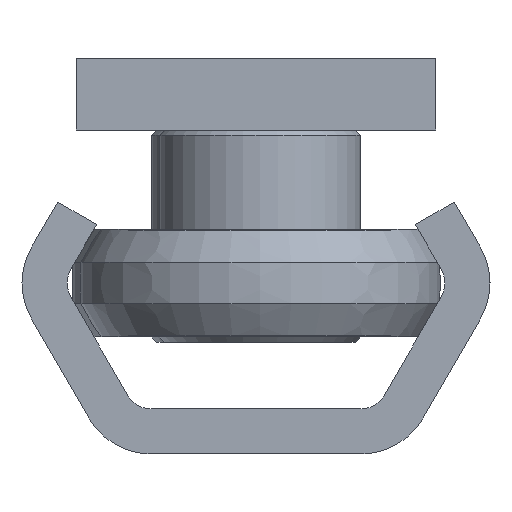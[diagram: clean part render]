
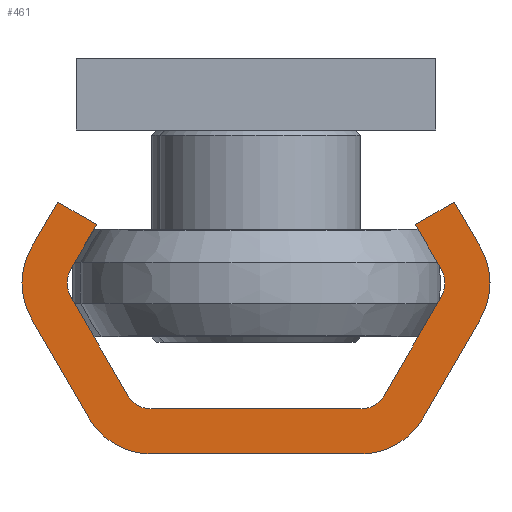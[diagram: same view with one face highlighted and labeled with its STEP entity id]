
A CAD part, left-side view. The second image highlights one B-rep face of the part: STEP entity #461.
In plain terms, the highlighted planar face has unit normal (-1, 0, 0).
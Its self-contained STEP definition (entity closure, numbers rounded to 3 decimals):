
#461 = ADVANCED_FACE( '', ( #957 ), #958, .F. );
#957 = FACE_OUTER_BOUND( '', #1591, .T. );
#958 = PLANE( '', #1592 );
#1591 = EDGE_LOOP( '', ( #2589, #2590, #2591, #2592, #2593, #2594, #2595, #2596, #2597, #2598, #2599, #2600, #2601, #2602, #2603, #2604, #2605, #2606, #2607, #2608 ) );
#1592 = AXIS2_PLACEMENT_3D( '', #2609, #2610, #2611 );
#2589 = ORIENTED_EDGE( '', *, *, #3428, .F. );
#2590 = ORIENTED_EDGE( '', *, *, #3155, .F. );
#2591 = ORIENTED_EDGE( '', *, *, #3426, .F. );
#2592 = ORIENTED_EDGE( '', *, *, #3139, .F. );
#2593 = ORIENTED_EDGE( '', *, *, #3429, .F. );
#2594 = ORIENTED_EDGE( '', *, *, #3430, .F. );
#2595 = ORIENTED_EDGE( '', *, *, #3361, .F. );
#2596 = ORIENTED_EDGE( '', *, *, #3431, .T. );
#2597 = ORIENTED_EDGE( '', *, *, #3259, .F. );
#2598 = ORIENTED_EDGE( '', *, *, #3307, .T. );
#2599 = ORIENTED_EDGE( '', *, *, #3247, .F. );
#2600 = ORIENTED_EDGE( '', *, *, #3255, .T. );
#2601 = ORIENTED_EDGE( '', *, *, #3416, .F. );
#2602 = ORIENTED_EDGE( '', *, *, #3432, .T. );
#2603 = ORIENTED_EDGE( '', *, *, #3281, .F. );
#2604 = ORIENTED_EDGE( '', *, *, #3219, .F. );
#2605 = ORIENTED_EDGE( '', *, *, #3433, .F. );
#2606 = ORIENTED_EDGE( '', *, *, #3434, .F. );
#2607 = ORIENTED_EDGE( '', *, *, #3435, .F. );
#2608 = ORIENTED_EDGE( '', *, *, #3405, .F. );
#2609 = CARTESIAN_POINT( '', ( 0., -5.825, -4. ) );
#2610 = DIRECTION( '', ( 1., 0., 0. ) );
#2611 = DIRECTION( '', ( 0., 0., -1. ) );
#3139 = EDGE_CURVE( '', #3569, #3570, #3571, .T. );
#3155 = EDGE_CURVE( '', #3597, #3598, #3599, .T. );
#3219 = EDGE_CURVE( '', #3708, #3709, #3710, .T. );
#3247 = EDGE_CURVE( '', #3753, #3754, #3755, .T. );
#3255 = EDGE_CURVE( '', #3753, #3767, #3768, .T. );
#3259 = EDGE_CURVE( '', #3773, #3774, #3775, .T. );
#3281 = EDGE_CURVE( '', #3709, #3809, #3810, .T. );
#3307 = EDGE_CURVE( '', #3773, #3754, #3851, .T. );
#3361 = EDGE_CURVE( '', #3930, #3931, #3932, .T. );
#3405 = EDGE_CURVE( '', #3997, #3998, #3999, .T. );
#3416 = EDGE_CURVE( '', #4013, #3767, #4014, .T. );
#3426 = EDGE_CURVE( '', #3570, #3597, #4025, .T. );
#3428 = EDGE_CURVE( '', #3598, #3997, #4027, .T. );
#3429 = EDGE_CURVE( '', #4028, #3569, #4029, .T. );
#3430 = EDGE_CURVE( '', #3931, #4028, #4030, .T. );
#3431 = EDGE_CURVE( '', #3930, #3774, #4031, .T. );
#3432 = EDGE_CURVE( '', #4013, #3809, #4032, .T. );
#3433 = EDGE_CURVE( '', #4033, #3708, #4034, .T. );
#3434 = EDGE_CURVE( '', #4035, #4033, #4036, .T. );
#3435 = EDGE_CURVE( '', #3998, #4035, #4037, .T. );
#3569 = VERTEX_POINT( '', #4196 );
#3570 = VERTEX_POINT( '', #4197 );
#3571 = CIRCLE( '', #4198, 4. );
#3597 = VERTEX_POINT( '', #4228 );
#3598 = VERTEX_POINT( '', #4229 );
#3599 = CIRCLE( '', #4230, 4. );
#3708 = VERTEX_POINT( '', #4363 );
#3709 = VERTEX_POINT( '', #4364 );
#3710 = LINE( '', #4365, #4366 );
#3753 = VERTEX_POINT( '', #4413 );
#3754 = VERTEX_POINT( '', #4414 );
#3755 = LINE( '', #4415, #4416 );
#3767 = VERTEX_POINT( '', #4431 );
#3768 = CIRCLE( '', #4432, 1.5 );
#3773 = VERTEX_POINT( '', #4438 );
#3774 = VERTEX_POINT( '', #4439 );
#3775 = LINE( '', #4440, #4441 );
#3809 = VERTEX_POINT( '', #4486 );
#3810 = LINE( '', #4487, #4488 );
#3851 = CIRCLE( '', #4538, 1.5 );
#3930 = VERTEX_POINT( '', #4636 );
#3931 = VERTEX_POINT( '', #4637 );
#3932 = LINE( '', #4638, #4639 );
#3997 = VERTEX_POINT( '', #4716 );
#3998 = VERTEX_POINT( '', #4717 );
#3999 = CIRCLE( '', #4718, 4. );
#4013 = VERTEX_POINT( '', #4738 );
#4014 = LINE( '', #4739, #4740 );
#4025 = LINE( '', #4752, #4753 );
#4027 = LINE( '', #4755, #4756 );
#4028 = VERTEX_POINT( '', #4757 );
#4029 = LINE( '', #4758, #4759 );
#4030 = LINE( '', #4760, #4761 );
#4031 = CIRCLE( '', #4762, 1.5 );
#4032 = CIRCLE( '', #4763, 1.5 );
#4033 = VERTEX_POINT( '', #4764 );
#4034 = LINE( '', #4765, #4766 );
#4035 = VERTEX_POINT( '', #4767 );
#4036 = CIRCLE( '', #4768, 4. );
#4037 = LINE( '', #4769, #4770 );
#4196 = CARTESIAN_POINT( '', ( 0., 12.464, -11.5 ) );
#4197 = CARTESIAN_POINT( '', ( 0., 12.464, -7.5 ) );
#4198 = AXIS2_PLACEMENT_3D( '', #4951, #4952, #4953 );
#4228 = CARTESIAN_POINT( '', ( 0., 9.289, -2. ) );
#4229 = CARTESIAN_POINT( '', ( 0., 5.825, 0. ) );
#4230 = AXIS2_PLACEMENT_3D( '', #4979, #4980, #4981 );
#4363 = CARTESIAN_POINT( '', ( 0., -11.021, -14. ) );
#4364 = CARTESIAN_POINT( '', ( 0., -8.856, -12.75 ) );
#4365 = CARTESIAN_POINT( '', ( 0., -11.021, -14. ) );
#4366 = VECTOR( '', #5078, 1000. );
#4413 = CARTESIAN_POINT( '', ( 0., -5.825, -2.5 ) );
#4414 = CARTESIAN_POINT( '', ( 0., 5.825, -2.5 ) );
#4415 = CARTESIAN_POINT( '', ( 0., -5.825, -2.5 ) );
#4416 = VECTOR( '', #5125, 1000. );
#4431 = CARTESIAN_POINT( '', ( 0., -7.124, -3.25 ) );
#4432 = AXIS2_PLACEMENT_3D( '', #5135, #5136, #5137 );
#4438 = CARTESIAN_POINT( '', ( 0., 7.124, -3.25 ) );
#4439 = CARTESIAN_POINT( '', ( 0., 10.299, -8.75 ) );
#4440 = CARTESIAN_POINT( '', ( 0., 7.124, -3.25 ) );
#4441 = VECTOR( '', #5142, 1000. );
#4486 = CARTESIAN_POINT( '', ( 0., -10.299, -10.25 ) );
#4487 = CARTESIAN_POINT( '', ( 0., -8.856, -12.75 ) );
#4488 = VECTOR( '', #5169, 1000. );
#4538 = AXIS2_PLACEMENT_3D( '', #5209, #5210, #5211 );
#4636 = CARTESIAN_POINT( '', ( 0., 10.299, -10.25 ) );
#4637 = CARTESIAN_POINT( '', ( 0., 8.856, -12.75 ) );
#4638 = CARTESIAN_POINT( '', ( 0., 10.299, -10.25 ) );
#4639 = VECTOR( '', #5285, 1000. );
#4716 = CARTESIAN_POINT( '', ( 0., -5.825, 0. ) );
#4717 = CARTESIAN_POINT( '', ( 0., -9.289, -2. ) );
#4718 = AXIS2_PLACEMENT_3D( '', #5358, #5359, #5360 );
#4738 = CARTESIAN_POINT( '', ( 0., -10.299, -8.75 ) );
#4739 = CARTESIAN_POINT( '', ( 0., -10.299, -8.75 ) );
#4740 = VECTOR( '', #5370, 1000. );
#4752 = CARTESIAN_POINT( '', ( 0., 12.464, -7.5 ) );
#4753 = VECTOR( '', #5378, 1000. );
#4755 = CARTESIAN_POINT( '', ( 0., 5.825, 0. ) );
#4756 = VECTOR( '', #5379, 1000. );
#4757 = CARTESIAN_POINT( '', ( 0., 11.021, -14. ) );
#4758 = CARTESIAN_POINT( '', ( 0., 11.021, -14. ) );
#4759 = VECTOR( '', #5380, 1000. );
#4760 = CARTESIAN_POINT( '', ( 0., 8.856, -12.75 ) );
#4761 = VECTOR( '', #5381, 1000. );
#4762 = AXIS2_PLACEMENT_3D( '', #5382, #5383, #5384 );
#4763 = AXIS2_PLACEMENT_3D( '', #5385, #5386, #5387 );
#4764 = CARTESIAN_POINT( '', ( 0., -12.464, -11.5 ) );
#4765 = CARTESIAN_POINT( '', ( 0., -12.464, -11.5 ) );
#4766 = VECTOR( '', #5388, 1000. );
#4767 = CARTESIAN_POINT( '', ( 0., -12.464, -7.5 ) );
#4768 = AXIS2_PLACEMENT_3D( '', #5389, #5390, #5391 );
#4769 = CARTESIAN_POINT( '', ( 0., -9.289, -2. ) );
#4770 = VECTOR( '', #5392, 1000. );
#4951 = CARTESIAN_POINT( '', ( 0., 9., -9.5 ) );
#4952 = DIRECTION( '', ( 1., 0., 0. ) );
#4953 = DIRECTION( '', ( 0., 0., -1. ) );
#4979 = CARTESIAN_POINT( '', ( 0., 5.825, -4. ) );
#4980 = DIRECTION( '', ( 1., 0., 0. ) );
#4981 = DIRECTION( '', ( 0., 0., -1. ) );
#5078 = DIRECTION( '', ( 0., 0.866, 0.5 ) );
#5125 = DIRECTION( '', ( 0., 1., 0. ) );
#5135 = CARTESIAN_POINT( '', ( 0., -5.825, -4. ) );
#5136 = DIRECTION( '', ( 1., 0., 0. ) );
#5137 = DIRECTION( '', ( 0., 0., -1. ) );
#5142 = DIRECTION( '', ( 0., 0.5, -0.866 ) );
#5169 = DIRECTION( '', ( 0., -0.5, 0.866 ) );
#5209 = CARTESIAN_POINT( '', ( 0., 5.825, -4. ) );
#5210 = DIRECTION( '', ( 1., 0., 0. ) );
#5211 = DIRECTION( '', ( 0., 0., -1. ) );
#5285 = DIRECTION( '', ( 0., -0.5, -0.866 ) );
#5358 = CARTESIAN_POINT( '', ( 0., -5.825, -4. ) );
#5359 = DIRECTION( '', ( 1., 0., 0. ) );
#5360 = DIRECTION( '', ( 0., 0., -1. ) );
#5370 = DIRECTION( '', ( 0., 0.5, 0.866 ) );
#5378 = DIRECTION( '', ( 0., -0.5, 0.866 ) );
#5379 = DIRECTION( '', ( 0., -1., 0. ) );
#5380 = DIRECTION( '', ( 0., 0.5, 0.866 ) );
#5381 = DIRECTION( '', ( 0., 0.866, -0.5 ) );
#5382 = CARTESIAN_POINT( '', ( 0., 9., -9.5 ) );
#5383 = DIRECTION( '', ( 1., 0., 0. ) );
#5384 = DIRECTION( '', ( 0., 0., -1. ) );
#5385 = CARTESIAN_POINT( '', ( 0., -9., -9.5 ) );
#5386 = DIRECTION( '', ( 1., 0., 0. ) );
#5387 = DIRECTION( '', ( 0., 0., -1. ) );
#5388 = DIRECTION( '', ( 0., 0.5, -0.866 ) );
#5389 = CARTESIAN_POINT( '', ( 0., -9., -9.5 ) );
#5390 = DIRECTION( '', ( 1., 0., 0. ) );
#5391 = DIRECTION( '', ( 0., 0., -1. ) );
#5392 = DIRECTION( '', ( 0., -0.5, -0.866 ) );
